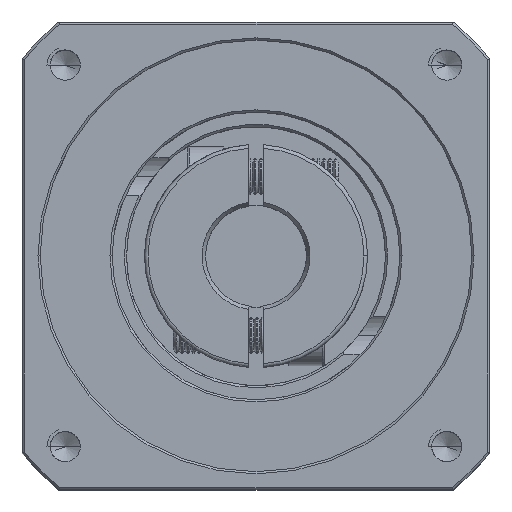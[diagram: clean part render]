
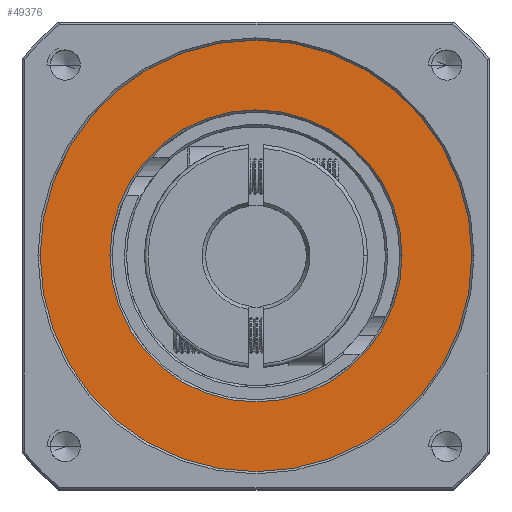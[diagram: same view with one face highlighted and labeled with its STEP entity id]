
A CAD part, top view. The second image highlights one B-rep face of the part: STEP entity #49376.
In plain terms, the highlighted planar face has unit normal (0, 0, 1).
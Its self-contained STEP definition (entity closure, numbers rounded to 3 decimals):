
#2667 = DIRECTION ( 'NONE',  ( 1., 0., 0. ) ) ;
#5321 = AXIS2_PLACEMENT_3D ( 'NONE', #81304, #37396, #88675 ) ;
#6581 = CARTESIAN_POINT ( 'NONE',  ( -95.257, 22.264, 44.201 ) ) ;
#9657 = CARTESIAN_POINT ( 'NONE',  ( -74.957, 22.264, 44.201 ) ) ;
#17008 = DIRECTION ( 'NONE',  ( 1., 0., 0. ) ) ;
#17118 = EDGE_CURVE ( 'NONE', #71422, #59363, #40991, .T. ) ;
#17789 = EDGE_CURVE ( 'NONE', #62681, #33816, #28279, .T. ) ;
#18798 = AXIS2_PLACEMENT_3D ( 'NONE', #9657, #61153, #17008 ) ;
#20728 = EDGE_LOOP ( 'NONE', ( #60468, #62487 ) ) ;
#28279 = CIRCLE ( 'NONE', #18798, 30. ) ;
#31373 = CARTESIAN_POINT ( 'NONE',  ( -104.957, 22.264, 44.201 ) ) ;
#33816 = VERTEX_POINT ( 'NONE', #31373 ) ;
#34750 = DIRECTION ( 'NONE',  ( 0., 0., 1. ) ) ;
#36333 = CARTESIAN_POINT ( 'NONE',  ( -74.957, 22.264, 44.201 ) ) ;
#37396 = DIRECTION ( 'NONE',  ( 0., 0., -1. ) ) ;
#38960 = CARTESIAN_POINT ( 'NONE',  ( -44.957, 22.264, 44.201 ) ) ;
#40703 = AXIS2_PLACEMENT_3D ( 'NONE', #90635, #46861, #2667 ) ;
#40991 = CIRCLE ( 'NONE', #76879, 20.3 ) ;
#43648 = FACE_OUTER_BOUND ( 'NONE', #72652, .T. ) ;
#43789 = DIRECTION ( 'NONE',  ( 1., 0., 0. ) ) ;
#46861 = DIRECTION ( 'NONE',  ( 0., 0., 1. ) ) ;
#49376 = ADVANCED_FACE ( 'NONE', ( #80305, #43648 ), #61289, .T. ) ;
#53296 = CIRCLE ( 'NONE', #70883, 30. ) ;
#58851 = CARTESIAN_POINT ( 'NONE',  ( -54.657, 22.264, 44.201 ) ) ;
#59363 = VERTEX_POINT ( 'NONE', #58851 ) ;
#60468 = ORIENTED_EDGE ( 'NONE', *, *, #79806, .T. ) ;
#61153 = DIRECTION ( 'NONE',  ( 0., 0., 1. ) ) ;
#61289 = PLANE ( 'NONE',  #40703 ) ;
#62487 = ORIENTED_EDGE ( 'NONE', *, *, #17118, .T. ) ;
#62681 = VERTEX_POINT ( 'NONE', #38960 ) ;
#63239 = ORIENTED_EDGE ( 'NONE', *, *, #17789, .T. ) ;
#63427 = ORIENTED_EDGE ( 'NONE', *, *, #67561, .T. ) ;
#67561 = EDGE_CURVE ( 'NONE', #33816, #62681, #53296, .T. ) ;
#70883 = AXIS2_PLACEMENT_3D ( 'NONE', #78700, #34750, #86078 ) ;
#71422 = VERTEX_POINT ( 'NONE', #6581 ) ;
#72652 = EDGE_LOOP ( 'NONE', ( #63239, #63427 ) ) ;
#76809 = CIRCLE ( 'NONE', #5321, 20.3 ) ;
#76879 = AXIS2_PLACEMENT_3D ( 'NONE', #36333, #87678, #43789 ) ;
#78700 = CARTESIAN_POINT ( 'NONE',  ( -74.957, 22.264, 44.201 ) ) ;
#79806 = EDGE_CURVE ( 'NONE', #59363, #71422, #76809, .T. ) ;
#80305 = FACE_BOUND ( 'NONE', #20728, .T. ) ;
#81304 = CARTESIAN_POINT ( 'NONE',  ( -74.957, 22.264, 44.201 ) ) ;
#86078 = DIRECTION ( 'NONE',  ( 1., 0., 0. ) ) ;
#87678 = DIRECTION ( 'NONE',  ( 0., 0., -1. ) ) ;
#88675 = DIRECTION ( 'NONE',  ( 1., 0., 0. ) ) ;
#90635 = CARTESIAN_POINT ( 'NONE',  ( -74.957, 22.264, 44.201 ) ) ;
